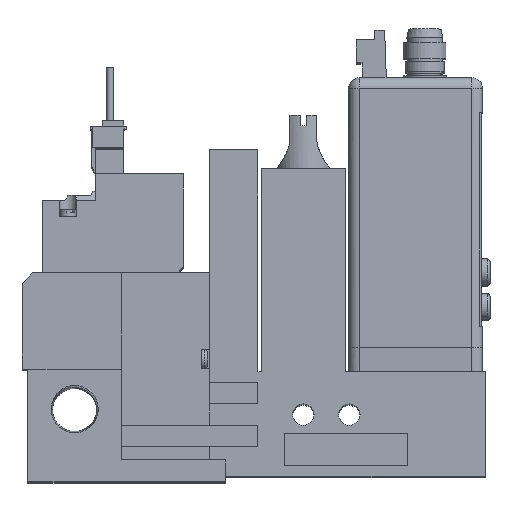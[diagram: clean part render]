
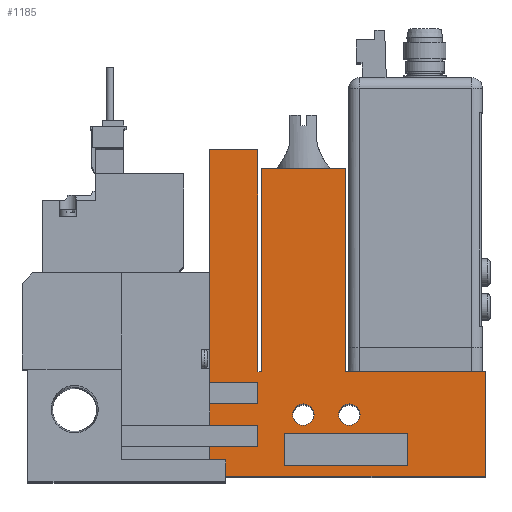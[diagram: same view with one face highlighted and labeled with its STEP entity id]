
A CAD part, top view. The second image highlights one B-rep face of the part: STEP entity #1185.
In plain terms, the highlighted planar face has unit normal (0, 0, 1).
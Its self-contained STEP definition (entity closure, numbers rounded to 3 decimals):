
#1185=ADVANCED_FACE('',(#5181,#5182,#5183,#5184),#5185,.T.);
#5181=FACE_OUTER_BOUND('',#13747,.T.);
#5182=FACE_BOUND('',#13748,.T.);
#5183=FACE_BOUND('',#13749,.T.);
#5184=FACE_BOUND('',#13750,.T.);
#5185=PLANE('',#13751);
#13747=EDGE_LOOP('',(#24084,#24085,#24086,#24087,#24088,#24089,#24090,#24091,#24092,#24093,#24094,#24095,#24096,#24097,#24098,#24099,#24100,#24101));
#13748=EDGE_LOOP('',(#24102,#24103,#24104,#24105));
#13749=EDGE_LOOP('',(#24106));
#13750=EDGE_LOOP('',(#24107));
#13751=AXIS2_PLACEMENT_3D('',#24108,#24109,#24110);
#24084=ORIENTED_EDGE('',*,*,#51860,.T.);
#24085=ORIENTED_EDGE('',*,*,#51776,.T.);
#24086=ORIENTED_EDGE('',*,*,#51856,.T.);
#24087=ORIENTED_EDGE('',*,*,#51861,.T.);
#24088=ORIENTED_EDGE('',*,*,#51862,.T.);
#24089=ORIENTED_EDGE('',*,*,#51863,.T.);
#24090=ORIENTED_EDGE('',*,*,#51864,.T.);
#24091=ORIENTED_EDGE('',*,*,#51865,.T.);
#24092=ORIENTED_EDGE('',*,*,#51866,.T.);
#24093=ORIENTED_EDGE('',*,*,#51842,.T.);
#24094=ORIENTED_EDGE('',*,*,#51817,.T.);
#24095=ORIENTED_EDGE('',*,*,#51815,.T.);
#24096=ORIENTED_EDGE('',*,*,#51813,.T.);
#24097=ORIENTED_EDGE('',*,*,#51811,.T.);
#24098=ORIENTED_EDGE('',*,*,#51769,.T.);
#24099=ORIENTED_EDGE('',*,*,#51834,.T.);
#24100=ORIENTED_EDGE('',*,*,#51826,.T.);
#24101=ORIENTED_EDGE('',*,*,#51867,.T.);
#24102=ORIENTED_EDGE('',*,*,#51868,.T.);
#24103=ORIENTED_EDGE('',*,*,#51796,.T.);
#24104=ORIENTED_EDGE('',*,*,#51869,.T.);
#24105=ORIENTED_EDGE('',*,*,#51870,.T.);
#24106=ORIENTED_EDGE('',*,*,#51871,.T.);
#24107=ORIENTED_EDGE('',*,*,#51820,.T.);
#24108=CARTESIAN_POINT('',(0.0,0.0,10.0));
#24109=DIRECTION('',(0.0,0.0,1.0));
#24110=DIRECTION('',(1.0,0.0,0.0));
#51769=EDGE_CURVE('',#62487,#62485,#62488,.T.);
#51776=EDGE_CURVE('',#62492,#62499,#62501,.T.);
#51796=EDGE_CURVE('',#62531,#62536,#62538,.T.);
#51811=EDGE_CURVE('',#62560,#62487,#62561,.T.);
#51813=EDGE_CURVE('',#62563,#62560,#62564,.T.);
#51815=EDGE_CURVE('',#62566,#62563,#62567,.T.);
#51817=EDGE_CURVE('',#62569,#62566,#62570,.T.);
#51820=EDGE_CURVE('',#62574,#62574,#62575,.T.);
#51826=EDGE_CURVE('',#62586,#62584,#62587,.T.);
#51834=EDGE_CURVE('',#62485,#62586,#62599,.T.);
#51842=EDGE_CURVE('',#62611,#62569,#62612,.T.);
#51856=EDGE_CURVE('',#62499,#62634,#62636,.T.);
#51860=EDGE_CURVE('',#62642,#62492,#62643,.T.);
#51861=EDGE_CURVE('',#62634,#62644,#62645,.T.);
#51862=EDGE_CURVE('',#62644,#62646,#62647,.T.);
#51863=EDGE_CURVE('',#62646,#62648,#62649,.T.);
#51864=EDGE_CURVE('',#62648,#62650,#62651,.T.);
#51865=EDGE_CURVE('',#62650,#62652,#62653,.T.);
#51866=EDGE_CURVE('',#62652,#62611,#62654,.T.);
#51867=EDGE_CURVE('',#62584,#62642,#62655,.T.);
#51868=EDGE_CURVE('',#62656,#62531,#62657,.T.);
#51869=EDGE_CURVE('',#62536,#62658,#62659,.T.);
#51870=EDGE_CURVE('',#62658,#62656,#62660,.T.);
#51871=EDGE_CURVE('',#62661,#62661,#62662,.T.);
#62485=VERTEX_POINT('',#78362);
#62487=VERTEX_POINT('',#78365);
#62488=LINE('',#78366,#78367);
#62492=VERTEX_POINT('',#78372);
#62499=VERTEX_POINT('',#78382);
#62501=LINE('',#78385,#78386);
#62531=VERTEX_POINT('',#78430);
#62536=VERTEX_POINT('',#78437);
#62538=LINE('',#78440,#78441);
#62560=VERTEX_POINT('',#78495);
#62561=LINE('',#78496,#78497);
#62563=VERTEX_POINT('',#78500);
#62564=LINE('',#78501,#78502);
#62566=VERTEX_POINT('',#78505);
#62567=LINE('',#78506,#78507);
#62569=VERTEX_POINT('',#78510);
#62570=LINE('',#78511,#78512);
#62574=VERTEX_POINT('',#78517);
#62575=CIRCLE('',#78518,2.0);
#62584=VERTEX_POINT('',#78531);
#62586=VERTEX_POINT('',#78534);
#62587=LINE('',#78535,#78536);
#62599=LINE('',#78555,#78556);
#62611=VERTEX_POINT('',#78575);
#62612=LINE('',#78576,#78577);
#62634=VERTEX_POINT('',#78611);
#62636=LINE('',#78614,#78615);
#62642=VERTEX_POINT('',#78622);
#62643=LINE('',#78623,#78624);
#62644=VERTEX_POINT('',#78625);
#62645=LINE('',#78626,#78627);
#62646=VERTEX_POINT('',#78628);
#62647=LINE('',#78629,#78630);
#62648=VERTEX_POINT('',#78631);
#62649=LINE('',#78632,#78633);
#62650=VERTEX_POINT('',#78634);
#62651=LINE('',#78635,#78636);
#62652=VERTEX_POINT('',#78637);
#62653=LINE('',#78638,#78639);
#62654=LINE('',#78640,#78641);
#62655=LINE('',#78642,#78643);
#62656=VERTEX_POINT('',#78644);
#62657=LINE('',#78645,#78646);
#62658=VERTEX_POINT('',#78647);
#62659=LINE('',#78648,#78649);
#62660=LINE('',#78650,#78651);
#62661=VERTEX_POINT('',#78652);
#62662=CIRCLE('',#78653,2.0);
#78362=CARTESIAN_POINT('',(44.75,19.5,10.0));
#78365=CARTESIAN_POINT('',(44.75,57.5,10.0));
#78366=CARTESIAN_POINT('',(44.75,57.5,10.0));
#78367=VECTOR('',#101311,1.0);
#78372=CARTESIAN_POINT('',(35.1,17.5,10.0));
#78382=CARTESIAN_POINT('',(44.1,17.5,10.0));
#78385=CARTESIAN_POINT('',(0.0,17.5,10.0));
#78386=VECTOR('',#101320,1.0);
#78430=CARTESIAN_POINT('',(49.1,8.0,10.0));
#78437=CARTESIAN_POINT('',(72.1,8.0,10.0));
#78440=CARTESIAN_POINT('',(0.0,8.0,10.0));
#78441=VECTOR('',#101344,1.0);
#78495=CARTESIAN_POINT('',(60.45,57.5,10.0));
#78496=CARTESIAN_POINT('',(60.45,57.5,10.0));
#78497=VECTOR('',#101366,1.0);
#78500=CARTESIAN_POINT('',(60.45,19.5,10.0));
#78501=CARTESIAN_POINT('',(60.45,19.5,10.0));
#78502=VECTOR('',#101368,1.0);
#78505=CARTESIAN_POINT('',(86.6,19.5,10.0));
#78506=CARTESIAN_POINT('',(86.6,19.5,10.0));
#78507=VECTOR('',#101370,1.0);
#78510=CARTESIAN_POINT('',(86.6,0.0,10.0));
#78511=CARTESIAN_POINT('',(86.6,0.0,10.0));
#78512=VECTOR('',#101372,1.0);
#78517=CARTESIAN_POINT('',(63.2,11.5,10.0));
#78518=AXIS2_PLACEMENT_3D('',#101377,#101378,#101379);
#78531=CARTESIAN_POINT('',(44.1,61.0,10.0));
#78534=CARTESIAN_POINT('',(44.1,19.5,10.0));
#78535=CARTESIAN_POINT('',(44.1,19.5,10.0));
#78536=VECTOR('',#101385,1.0);
#78555=CARTESIAN_POINT('',(44.75,19.5,10.0));
#78556=VECTOR('',#101393,1.0);
#78575=CARTESIAN_POINT('',(35.1,0.0,10.0));
#78576=CARTESIAN_POINT('',(18.6,0.0,10.0));
#78577=VECTOR('',#101401,1.0);
#78611=CARTESIAN_POINT('',(44.1,13.5,10.0));
#78614=CARTESIAN_POINT('',(44.1,0.0,10.0));
#78615=VECTOR('',#101415,1.0);
#78622=CARTESIAN_POINT('',(35.1,61.0,10.0));
#78623=CARTESIAN_POINT('',(35.1,61.0,10.0));
#78624=VECTOR('',#101423,1.0);
#78625=CARTESIAN_POINT('',(35.1,13.5,10.0));
#78626=CARTESIAN_POINT('',(0.0,13.5,10.0));
#78627=VECTOR('',#101424,1.0);
#78628=CARTESIAN_POINT('',(35.1,9.5,10.0));
#78629=CARTESIAN_POINT('',(35.1,0.0,10.0));
#78630=VECTOR('',#101425,1.0);
#78631=CARTESIAN_POINT('',(44.1,9.5,10.0));
#78632=CARTESIAN_POINT('',(0.0,9.5,10.0));
#78633=VECTOR('',#101426,1.0);
#78634=CARTESIAN_POINT('',(44.1,5.5,10.0));
#78635=CARTESIAN_POINT('',(44.1,0.0,10.0));
#78636=VECTOR('',#101427,1.0);
#78637=CARTESIAN_POINT('',(35.1,5.5,10.0));
#78638=CARTESIAN_POINT('',(0.0,5.5,10.0));
#78639=VECTOR('',#101428,1.0);
#78640=CARTESIAN_POINT('',(35.1,0.0,10.0));
#78641=VECTOR('',#101429,1.0);
#78642=CARTESIAN_POINT('',(44.1,61.0,10.0));
#78643=VECTOR('',#101430,1.0);
#78644=CARTESIAN_POINT('',(49.1,2.0,10.0));
#78645=CARTESIAN_POINT('',(49.1,0.0,10.0));
#78646=VECTOR('',#101431,1.0);
#78647=CARTESIAN_POINT('',(72.1,2.0,10.0));
#78648=CARTESIAN_POINT('',(72.1,0.0,10.0));
#78649=VECTOR('',#101432,1.0);
#78650=CARTESIAN_POINT('',(0.0,2.0,10.0));
#78651=VECTOR('',#101433,1.0);
#78652=CARTESIAN_POINT('',(54.6,11.5,10.0));
#78653=AXIS2_PLACEMENT_3D('',#101434,#101435,#101436);
#101311=DIRECTION('',(0.0,-1.0,0.0));
#101320=DIRECTION('',(1.0,0.0,0.0));
#101344=DIRECTION('',(1.0,0.0,0.0));
#101366=DIRECTION('',(-1.0,0.0,0.0));
#101368=DIRECTION('',(0.0,1.0,0.0));
#101370=DIRECTION('',(-1.0,0.0,0.0));
#101372=DIRECTION('',(0.0,1.0,0.0));
#101377=CARTESIAN_POINT('',(61.2,11.5,10.0));
#101378=DIRECTION('',(0.0,0.0,-1.0));
#101379=DIRECTION('',(1.0,0.0,0.0));
#101385=DIRECTION('',(0.0,1.0,0.0));
#101393=DIRECTION('',(-1.0,0.0,0.0));
#101401=DIRECTION('',(1.0,0.0,0.0));
#101415=DIRECTION('',(0.0,-1.0,0.0));
#101423=DIRECTION('',(0.0,-1.0,0.0));
#101424=DIRECTION('',(-1.0,0.0,0.0));
#101425=DIRECTION('',(0.0,-1.0,0.0));
#101426=DIRECTION('',(1.0,0.0,0.0));
#101427=DIRECTION('',(0.0,-1.0,0.0));
#101428=DIRECTION('',(-1.0,0.0,0.0));
#101429=DIRECTION('',(0.0,-1.0,0.0));
#101430=DIRECTION('',(-1.0,0.0,0.0));
#101431=DIRECTION('',(0.0,1.0,0.0));
#101432=DIRECTION('',(0.0,-1.0,0.0));
#101433=DIRECTION('',(-1.0,0.0,0.0));
#101434=CARTESIAN_POINT('',(52.6,11.5,10.0));
#101435=DIRECTION('',(0.0,0.0,-1.0));
#101436=DIRECTION('',(1.0,0.0,0.0));
